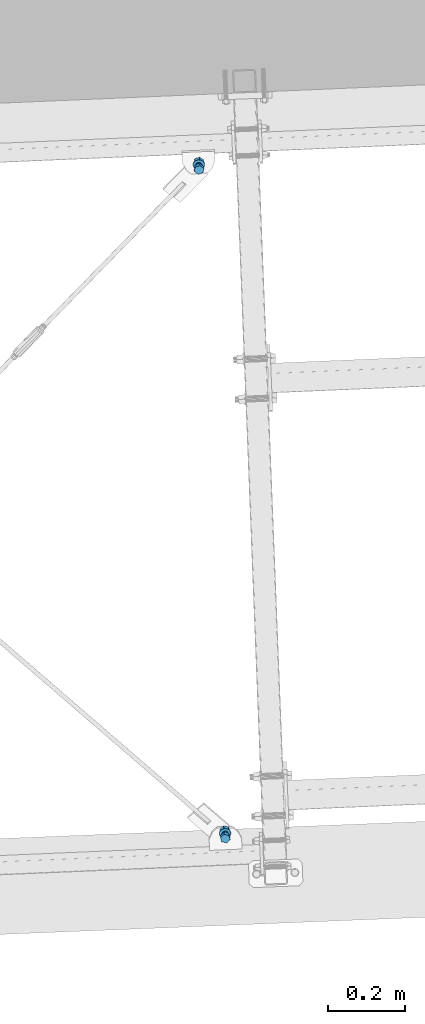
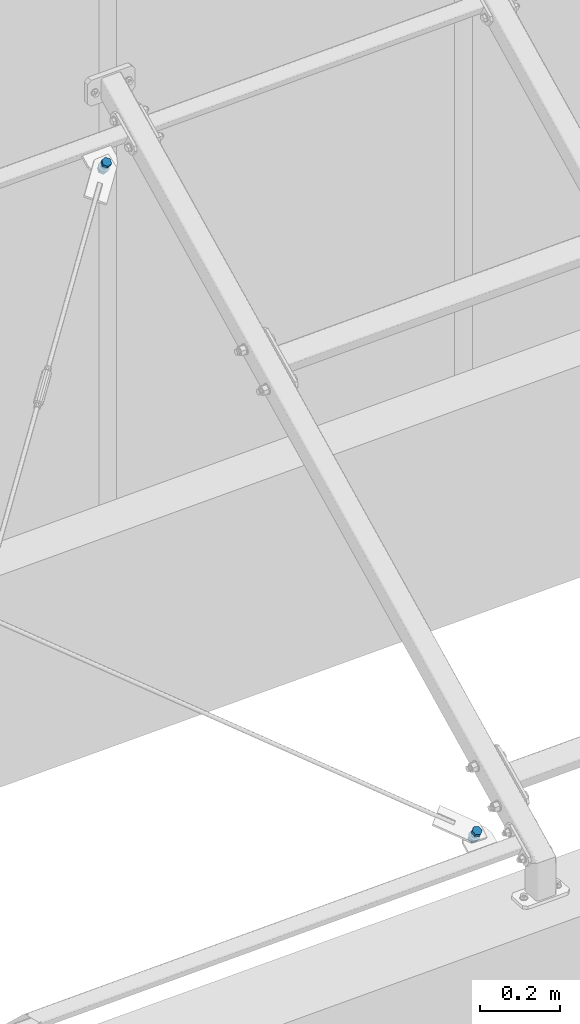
# One storey, part 268 of 288: 2 mechanical fasteners.
"""IFC2X3 building model written with IfcOpenShell, lengths in millimetres."""

import ifcopenshell
import ifcopenshell.guid

model = None  # the IFC model being written
_history = None  # IfcOwnerHistory: only IFC2X3 demands one
_inside = {}  # id of a spatial element -> (the spatial element, [elements in it])
_under = {}  # id of a project, library or spatial element -> (it, [spatial elements below it])
_declared = {}  # id of a project -> (the project, [libraries it declares])
_typed = {}  # id of a type object -> (the type object, [elements of that type])
_made_of = {}  # id of a material, layer set ... -> (it, [elements and type objects made of it])


def new_model(schema):
    """Start an empty IFC model of exactly this schema.

    Asked for "IFC4X3", IfcOpenShell would pick the latest addendum, in which some entities
    have other attributes; the version numbers below select the first issue.
    IFC2X3 requires an IfcOwnerHistory on every rooted entity: one is made here for all.
    """
    global model, _history
    if schema == "IFC4X3":
        model = ifcopenshell.file(schema_version=(4, 3, 0, 0))
    else:
        model = ifcopenshell.file(schema=schema)
    _inside.clear()
    _under.clear()
    _declared.clear()
    _typed.clear()
    _made_of.clear()
    _history = None
    if model.schema == "IFC2X3":
        org = make("IfcOrganization", Name="unknown")
        user = make(
            "IfcPersonAndOrganization",
            ThePerson=make("IfcPerson", FamilyName="unknown"),
            TheOrganization=org,
        )
        app = make(
            "IfcApplication",
            ApplicationDeveloper=org,
            Version="unknown",
            ApplicationFullName="unknown",
            ApplicationIdentifier="unknown",
        )
        _history = make(
            "IfcOwnerHistory",
            OwningUser=user,
            OwningApplication=app,
            ChangeAction="ADDED",
            CreationDate=0,
        )
    return model


def make(cls, **values):
    """One entity of the class cls with the attributes given. An attribute that is None is left unset."""
    return model.create_entity(
        cls, **{name: value for name, value in values.items() if value is not None}
    )


def entity(cls, *values):
    """Any entity or typed value of the class cls, its attributes in the order of the schema. None: left unset."""
    e = model.create_entity(cls)
    for i, value in enumerate(values):
        if value is not None:
            e[i] = value
    return e


def rooted(cls, **values):
    """An entity with a GlobalId (a new one), such as an element, a storey or a relation."""
    return make(cls, GlobalId=ifcopenshell.guid.new(), OwnerHistory=_history, **values)


def si_unit(unit_type, name, prefix=None):
    """IfcSIUnit, for example si_unit("LENGTHUNIT", "METRE", prefix="MILLI")."""
    return make("IfcSIUnit", UnitType=unit_type, Prefix=prefix, Name=name)


def converted_unit(unit_type, name, factor, base, dimensions=None, offset=None):
    """IfcConversionBasedUnit, such as the inch: factor (a typed value) times the base unit."""
    return make(
        "IfcConversionBasedUnit"
        if offset is None
        else "IfcConversionBasedUnitWithOffset",
        ConversionOffset=offset,
        Dimensions=None
        if dimensions is None
        else entity("IfcDimensionalExponents", *dimensions),
        UnitType=unit_type,
        Name=name,
        ConversionFactor=make(
            "IfcMeasureWithUnit", ValueComponent=factor, UnitComponent=base
        ),
    )


def assignment(units):
    """IfcUnitAssignment: the units of a project."""
    return None if units is None else make("IfcUnitAssignment", Units=units)


def point(xyz):
    """IfcCartesianPoint."""
    return None if xyz is None else make("IfcCartesianPoint", Coordinates=xyz)


def direction(xyz):
    """IfcDirection."""
    return None if xyz is None else make("IfcDirection", DirectionRatios=xyz)


def frame(location, z_axis=None, x_axis=None):
    """IfcAxis2Placement3D, a coordinate frame: its origin and axes. An axis left out is left unset."""
    return make(
        "IfcAxis2Placement3D",
        Location=point(location),
        Axis=direction(z_axis),
        RefDirection=direction(x_axis),
    )


def origin_with_axes():
    """The frame at (0, 0, 0) with the z axis (0, 0, 1) and the x axis (1, 0, 0) written out."""
    return frame((0.0, 0.0, 0.0), z_axis=(0.0, 0.0, 1.0), x_axis=(1.0, 0.0, 0.0))


def place(relative_to, where):
    """IfcLocalPlacement: puts the frame where relative to a parent placement (None: the world)."""
    return make(
        "IfcLocalPlacement", PlacementRelTo=relative_to, RelativePlacement=where
    )


def context(
    kind, dimensions, precision=None, world=None, true_north=None, identifier=None
):
    """IfcGeometricRepresentationContext, for example the 3D "Model" context."""
    return make(
        "IfcGeometricRepresentationContext",
        ContextIdentifier=identifier,
        ContextType=kind,
        CoordinateSpaceDimension=dimensions,
        Precision=precision,
        WorldCoordinateSystem=world,
        TrueNorth=true_north,
    )


def project(units=None, contexts=None):
    """IfcProject with its units and contexts."""
    return rooted(
        "IfcProject",
        Name="project",
        RepresentationContexts=contexts,
        UnitsInContext=assignment(units),
    )


def spatial(cls, under=None, at=None, **own):
    """A site, building, storey or space (cls), placed at a placement, below another one or the project."""
    s = rooted(cls, ObjectPlacement=at, **own)
    if under is not None:
        _under.setdefault(under.id(), (under, []))[1].append(s)
    return s


def faces_of(points, faces, orient=None, outer=None):
    """IfcFace entities. A face is a list of loops; a loop is a list of indices into points, from 0.

    orient and outer hold one flag for each loop. By default every Orientation is true, the
    first loop of a face is its IfcFaceOuterBound and the others are IfcFaceBound.
    """
    made = []
    for i, loops in enumerate(faces):
        bounds = []
        for j, loop in enumerate(loops):
            is_outer = j == 0 if outer is None else outer[i][j]
            bounds.append(
                make(
                    "IfcFaceOuterBound" if is_outer else "IfcFaceBound",
                    Bound=make("IfcPolyLoop", Polygon=[points[k] for k in loop]),
                    Orientation=True if orient is None else orient[i][j],
                )
            )
        made.append(make("IfcFace", Bounds=bounds))
    return made


def faceted_brep(points, faces, orient=None, outer=None, voids=None):
    """IfcFacetedBrep: a solid bounded by flat faces; with voids (closed shells), ...WithVoids."""
    shared = [point(p) for p in points]
    hull = make("IfcClosedShell", CfsFaces=faces_of(shared, faces, orient, outer))
    if voids is None:
        return make("IfcFacetedBrep", Outer=hull)
    return make(
        "IfcFacetedBrepWithVoids",
        Outer=hull,
        Voids=[
            make(cls, CfsFaces=faces_of(shared, fs, o, b)) for cls, fs, o, b in voids
        ],
    )


def shape(context_of_items, identifier, shape_type, items):
    """IfcShapeRepresentation: the items that make up one representation, for example the "Body"."""
    return make(
        "IfcShapeRepresentation",
        ContextOfItems=context_of_items,
        RepresentationIdentifier=identifier,
        RepresentationType=shape_type,
        Items=items,
    )


def made_of(thing, what):
    """Note that an element or type object is made of a material, layer set ...; save() writes the relation."""
    if what is not None:
        _made_of.setdefault(what.id(), (what, []))[1].append(thing)
    return thing


def element(
    cls,
    number,
    at=None,
    inside=None,
    cuts=None,
    type_object=None,
    material=None,
    context=None,
    identifier="Body",
    shape_type=None,
    held_by="IfcProductDefinitionShape",
    body=None,
    shapes=None,
    **own,
):
    """One element of the class cls, such as IfcWall. Its Tag is "e" and its number.

    at: its placement. inside: the storey or other place that contains it. cuts: it is an
    opening in that element (IfcRelVoidsElement). A single representation is given by context,
    identifier, shape_type and body (its items); several are given by shapes. held_by: the class
    of the entity that holds the representations. save() writes the other relations.
    """
    e = rooted(cls, Tag="e%d" % number, ObjectPlacement=at, **own)
    if body is not None:
        shapes = [shape(context, identifier, shape_type, body)]
    if shapes is not None:
        e.Representation = make(held_by, Representations=shapes)
    if inside is not None:
        _inside.setdefault(inside.id(), (inside, []))[1].append(e)
    if cuts is not None:
        rooted(
            "IfcRelVoidsElement", RelatingBuildingElement=cuts, RelatedOpeningElement=e
        )
    if type_object is not None:
        _typed.setdefault(type_object.id(), (type_object, []))[1].append(e)
    return made_of(e, material)


def aggregate(whole, parts):
    """IfcRelAggregates: a whole, such as a stair, and the parts it consists of."""
    return rooted("IfcRelAggregates", RelatingObject=whole, RelatedObjects=parts)


def save(model, path):
    """Write the relations noted so far, then the file.

    IfcRelAggregates (storeys below a building ...), IfcRelContainedInSpatialStructure (elements
    in a storey), IfcRelDefinesByType, IfcRelAssociatesMaterial and IfcRelDeclares: one each for
    every whole, place, type object, material and project.
    """
    for whole, parts in _under.values():
        aggregate(whole, parts)
    for where, things in _inside.values():
        rooted(
            "IfcRelContainedInSpatialStructure",
            RelatedElements=things,
            RelatingStructure=where,
        )
    for kind, things in _typed.values():
        rooted("IfcRelDefinesByType", RelatedObjects=things, RelatingType=kind)
    for what, things in _made_of.values():
        rooted("IfcRelAssociatesMaterial", RelatedObjects=things, RelatingMaterial=what)
    for by, libraries in _declared.values():
        rooted("IfcRelDeclares", RelatingContext=by, RelatedDefinitions=libraries)
    model.write(path)


model = new_model("IFC2X3")

# Units and contexts
model_context = context("Model", 3, precision=1e-09, world=origin_with_axes())
ifc_project = project(units=[si_unit("LENGTHUNIT", "METRE", prefix="MILLI"), si_unit("AREAUNIT", "SQUARE_METRE"), si_unit("VOLUMEUNIT", "CUBIC_METRE"), converted_unit("PLANEANGLEUNIT", "DEGREE", entity("IfcPlaneAngleMeasure", 0.01745329), si_unit("PLANEANGLEUNIT", "RADIAN"), dimensions=[0, 0, 0, 0, 0, 0, 0])], contexts=[model_context])

# Site, building, storey
site_placement = place(None, origin_with_axes())
site = spatial("IfcSite", under=ifc_project, at=site_placement, Name="Remont ?wietlik?w nad MC w NCPP w Opolu", CompositionType="ELEMENT")
building_placement = place(site_placement, origin_with_axes())
building = spatial("IfcBuilding", under=site, at=building_placement, Name="Konstrukcja 1", CompositionType="ELEMENT")
storey_placement = place(building_placement, origin_with_axes())
storey = spatial("IfcBuildingStorey", under=building, at=storey_placement, Name="Default Storey", CompositionType="ELEMENT", Elevation=0.0)

# Mechanical fasteners
mechanical_fastener_1_placement = place(None, origin_with_axes())
element("IfcMechanicalFastener", 1, at=mechanical_fastener_1_placement, inside=storey, ObjectType="Bolt#1", NominalDiameter=16.0, NominalLength=40.0, context=model_context, shape_type="Brep", body=[
    faceted_brep([(8631.695032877, 13983.653816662, 192.39516934), (8631.479083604, 13988.688953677, 183.757996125), (8634.862780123, 13977.546911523, 177.178017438), (8635.078729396, 13972.511774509, 185.815190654), (8647.758125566, 13974.629956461, 175.155132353), (8647.974074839, 13969.594819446, 183.792305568), (8657.26977449, 13982.855043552, 179.712225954), (8657.485723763, 13977.819906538, 188.34939917), (8653.886077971, 13993.997085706, 186.292204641), (8654.102027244, 13988.961948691, 194.929377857), (8640.990732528, 13996.914040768, 188.315089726), (8641.2066818, 13991.878903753, 196.952262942)], [[[0, 1, 2, 3]], [[3, 2, 4, 5]], [[5, 4, 6, 7]], [[7, 6, 8, 9]], [[9, 8, 10, 11]], [[11, 10, 1, 0]], [[3, 5, 7, 9, 11, 0]], [[2, 1, 10, 8, 6, 4]]]),
    faceted_brep([(8649.650568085, 13988.973210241, 164.944798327), (8649.996086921, 13980.916991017, 178.764275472), (8647.390997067, 13979.403877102, 177.947322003), (8647.045478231, 13987.460096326, 164.127844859), (8644.326662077, 13978.860251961, 177.707025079), (8643.98114324, 13986.916471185, 163.887547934), (8641.269599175, 13979.368877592, 178.079967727), (8640.924080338, 13987.425096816, 164.260490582), (8638.685218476, 13980.852320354, 179.009372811), (8638.339699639, 13988.908539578, 165.189895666), (8636.966968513, 13983.084739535, 180.353746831), (8636.621449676, 13991.140958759, 166.534269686), (8636.376437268, 13985.72626955, 181.90842103), (8636.030918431, 13993.782488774, 168.088943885), (8637.003527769, 13988.374761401, 183.436710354), (8636.658008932, 13996.430980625, 169.617233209), (8638.752771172, 13990.627006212, 184.705946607), (8638.407252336, 13998.683225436, 170.886469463), (8641.357861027, 13992.140120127, 185.522900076), (8641.01234219, 14000.196339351, 171.703422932), (8644.422196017, 13992.683745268, 185.763197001), (8644.07667718, 14000.739964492, 171.943719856), (8647.479258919, 13992.175119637, 185.390254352), (8647.133740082, 14000.231338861, 171.570777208), (8650.063639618, 13990.691676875, 184.460849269), (8649.718120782, 13998.747896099, 170.641372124), (8651.781889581, 13988.459257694, 183.116475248), (8651.436370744, 13996.515476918, 169.296998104), (8652.372420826, 13985.817727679, 181.561801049), (8652.026901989, 13993.873946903, 167.742323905), (8651.745330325, 13983.169235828, 180.033511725), (8651.399811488, 13991.225455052, 166.214034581)], [[[0, 1, 2, 3]], [[3, 2, 4, 5]], [[5, 4, 6, 7]], [[7, 6, 8, 9]], [[9, 8, 10, 11]], [[11, 10, 12, 13]], [[13, 12, 14, 15]], [[15, 14, 16, 17]], [[17, 16, 18, 19]], [[19, 18, 20, 21]], [[21, 20, 22, 23]], [[23, 22, 24, 25]], [[25, 24, 26, 27]], [[27, 26, 28, 29]], [[29, 28, 30, 31]], [[31, 30, 1, 0]], [[2, 1, 30, 28, 26, 24, 22, 20, 18, 16, 14, 12, 10, 8, 6, 4]], [[31, 0, 3, 5, 7, 9, 11, 13, 15, 17, 19, 21, 23, 25, 27, 29]]]),
    faceted_brep([(8654.504733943, 13986.235619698, 159.754165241), (8654.569518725, 13984.725078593, 162.345317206), (8652.285902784, 13983.100402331, 161.455289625), (8652.221118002, 13984.610943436, 158.86413766), (8649.684975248, 13981.887990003, 160.813529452), (8649.620190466, 13983.398531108, 158.222377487), (8646.866688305, 13981.134433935, 160.444699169), (8646.801903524, 13982.644975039, 157.853547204), (8643.939347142, 13980.868692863, 160.362972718), (8643.87456236, 13982.379233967, 157.771820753), (8641.015447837, 13981.100979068, 160.571490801), (8640.950663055, 13982.611520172, 157.980338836), (8638.207354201, 13981.822365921, 161.062240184), (8638.142569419, 13983.332907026, 158.471088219), (8635.622979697, 13983.005130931, 161.816361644), (8635.558194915, 13984.515672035, 159.225209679), (8633.361640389, 13984.603821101, 162.804874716), (8633.296855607, 13986.114362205, 160.213722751), (8631.510238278, 13986.556999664, 163.989791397), (8631.445453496, 13988.067540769, 161.398639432), (8630.139921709, 13988.789607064, 165.325576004), (8630.075136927, 13990.300148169, 162.734424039), (8629.303351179, 13991.215845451, 166.760895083), (8629.238566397, 13992.726386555, 164.169743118), (8629.032675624, 13993.742475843, 168.240590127), (8628.967890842, 13995.253016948, 165.649438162), (8629.338296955, 13996.272401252, 169.707797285), (8629.273512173, 13997.782942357, 167.11664532), (8630.208470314, 13998.708398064, 171.106132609), (8630.143685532, 14000.218939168, 168.514980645), (8631.609755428, 14000.956852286, 172.381858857), (8631.544970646, 14002.46739339, 169.790706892), (8633.488301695, 14002.931357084, 173.485950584), (8633.423516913, 14004.441898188, 170.89479862), (8635.771917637, 14004.556033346, 174.375978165), (8635.707132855, 14006.06657445, 171.7848262), (8638.372845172, 14005.768445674, 175.017738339), (8638.30806039, 14007.278986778, 172.426586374), (8641.191132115, 14006.522001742, 175.386568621), (8641.126347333, 14008.032542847, 172.795416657), (8644.118473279, 14006.787742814, 175.468295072), (8644.053688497, 14008.298283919, 172.877143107), (8647.042372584, 14006.555456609, 175.259776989), (8646.977587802, 14008.065997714, 172.668625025), (8649.85046622, 14005.834069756, 174.769027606), (8649.785681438, 14007.34461086, 172.177875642), (8652.434840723, 14004.651304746, 174.014906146), (8652.370055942, 14006.161845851, 171.423754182), (8654.696180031, 14003.052614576, 173.026393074), (8654.631395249, 14004.563155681, 170.43524111), (8656.547582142, 14001.099436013, 171.841476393), (8656.48279736, 14002.609977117, 169.250324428), (8657.917898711, 13998.866828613, 170.505691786), (8657.85311393, 14000.377369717, 167.914539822), (8658.754469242, 13996.440590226, 169.070372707), (8658.68968446, 13997.951131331, 166.479220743), (8659.025144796, 13993.913959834, 167.590677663), (8658.960360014, 13995.424500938, 164.999525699), (8658.719523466, 13991.384034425, 166.123470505), (8658.654738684, 13992.894575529, 163.532318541), (8657.849350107, 13988.948037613, 164.725135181), (8657.784565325, 13990.458578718, 162.133983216), (8656.448064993, 13986.699583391, 163.449408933), (8656.383280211, 13988.210124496, 160.858256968)], [[[0, 1, 2, 3]], [[3, 2, 4, 5]], [[5, 4, 6, 7]], [[7, 6, 8, 9]], [[9, 8, 10, 11]], [[11, 10, 12, 13]], [[13, 12, 14, 15]], [[15, 14, 16, 17]], [[17, 16, 18, 19]], [[19, 18, 20, 21]], [[21, 20, 22, 23]], [[23, 22, 24, 25]], [[25, 24, 26, 27]], [[27, 26, 28, 29]], [[29, 28, 30, 31]], [[31, 30, 32, 33]], [[33, 32, 34, 35]], [[35, 34, 36, 37]], [[37, 36, 38, 39]], [[39, 38, 40, 41]], [[41, 40, 42, 43]], [[43, 42, 44, 45]], [[45, 44, 46, 47]], [[47, 46, 48, 49]], [[49, 48, 50, 51]], [[51, 50, 52, 53]], [[53, 52, 54, 55]], [[55, 54, 56, 57]], [[57, 56, 58, 59]], [[59, 58, 60, 61]], [[61, 60, 62, 63]], [[63, 62, 1, 0]], [[2, 1, 62, 60, 58, 56, 54, 52, 50, 48, 46, 44, 42, 40, 38, 36, 34, 32, 30, 28, 26, 24, 22, 20, 18, 16, 14, 12, 10, 8, 6, 4]], [[63, 0, 3, 5, 7, 9, 11, 13, 15, 17, 19, 21, 23, 25, 27, 29, 31, 33, 35, 37, 39, 41, 43, 45, 47, 49, 51, 53, 55, 57, 59, 61]]]),
    faceted_brep([(8631.068779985, 13998.255714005, 167.347367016), (8630.749175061, 14005.707716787, 154.564350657), (8634.132871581, 13994.565674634, 147.98437197), (8634.452476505, 13987.113671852, 160.767388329), (8647.028217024, 13991.648719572, 145.961486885), (8647.347821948, 13984.19671679, 158.744503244), (8656.539865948, 13999.873806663, 150.518580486), (8656.859470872, 13992.421803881, 163.301596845), (8653.156169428, 14011.015848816, 157.098559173), (8653.475774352, 14003.563846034, 169.881575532), (8640.260823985, 14013.932803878, 159.121444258), (8640.580428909, 14006.480801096, 171.904460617)], [[[0, 1, 2, 3]], [[3, 2, 4, 5]], [[5, 4, 6, 7]], [[7, 6, 8, 9]], [[9, 8, 10, 11]], [[11, 10, 1, 0]], [[3, 5, 7, 9, 11, 0]], [[2, 1, 10, 8, 6, 4]]]),
    faceted_brep([(8649.13228983, 14001.057539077, 144.215582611), (8649.266178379, 13997.935754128, 149.570630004), (8646.661088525, 13996.422640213, 148.753676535), (8646.527199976, 13999.544425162, 143.398629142), (8643.596753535, 13995.879015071, 148.513379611), (8643.462864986, 13999.00080002, 143.158332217), (8640.539690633, 13996.387640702, 148.886322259), (8640.405802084, 13999.509425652, 143.531274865), (8637.955309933, 13997.871083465, 149.815727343), (8637.821421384, 14000.992868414, 144.460679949), (8636.237059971, 14000.103502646, 151.160101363), (8636.103171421, 14003.225287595, 145.805053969), (8635.646528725, 14002.745032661, 152.714775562), (8635.512640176, 14005.86681761, 147.359728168), (8636.273619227, 14005.393524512, 154.243064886), (8636.139730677, 14008.515309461, 148.888017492), (8638.02286263, 14007.645769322, 155.512301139), (8637.888974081, 14010.767554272, 150.157253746), (8640.627952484, 14009.158883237, 156.329254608), (8640.494063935, 14012.280668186, 150.974207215), (8643.692287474, 14009.702508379, 156.569551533), (8643.558398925, 14012.824293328, 151.214504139), (8646.749350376, 14009.193882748, 156.196608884), (8646.615461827, 14012.315667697, 150.841561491), (8649.333731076, 14007.710439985, 155.267203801), (8649.199842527, 14010.832224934, 149.912156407), (8651.051981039, 14005.478020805, 153.92282978), (8650.918092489, 14008.599805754, 148.567782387), (8651.642512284, 14002.836490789, 152.368155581), (8651.508623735, 14005.958275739, 147.013108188), (8651.015421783, 14000.187998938, 150.839866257), (8650.881533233, 14003.309783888, 145.484818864)], [[[0, 1, 2, 3]], [[3, 2, 4, 5]], [[5, 4, 6, 7]], [[7, 6, 8, 9]], [[9, 8, 10, 11]], [[11, 10, 12, 13]], [[13, 12, 14, 15]], [[15, 14, 16, 17]], [[17, 16, 18, 19]], [[19, 18, 20, 21]], [[21, 20, 22, 23]], [[23, 22, 24, 25]], [[25, 24, 26, 27]], [[27, 26, 28, 29]], [[29, 28, 30, 31]], [[31, 30, 1, 0]], [[2, 1, 30, 28, 26, 24, 22, 20, 18, 16, 14, 12, 10, 8, 6, 4]], [[31, 0, 3, 5, 7, 9, 11, 13, 15, 17, 19, 21, 23, 25, 27, 29]]]),
])
mechanical_fastener_2_placement = place(None, origin_with_axes())
element("IfcMechanicalFastener", 2, at=mechanical_fastener_2_placement, inside=storey, ObjectType="Bolt#1", NominalDiameter=16.0, NominalLength=40.0, context=model_context, shape_type="Brep", body=[
    faceted_brep([(8563.333486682, 15725.848200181, 1198.15826303), (8563.549435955, 15720.813063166, 1206.795436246), (8565.981584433, 15732.201696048, 1213.37375821), (8565.765635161, 15737.236833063, 1204.736584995), (8578.584883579, 15736.199788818, 1215.389379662), (8578.368934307, 15741.234925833, 1206.752206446), (8588.756034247, 15728.809248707, 1210.826679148), (8588.540084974, 15733.844385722, 1202.189505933), (8586.323885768, 15717.420615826, 1204.248357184), (8586.107936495, 15722.455752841, 1195.611183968), (8573.720586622, 15713.422523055, 1202.232735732), (8573.504637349, 15718.45766007, 1193.595562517)], [[[0, 1, 2, 3]], [[3, 2, 4, 5]], [[5, 4, 6, 7]], [[7, 6, 8, 9]], [[9, 8, 10, 11]], [[11, 10, 1, 0]], [[4, 2, 1, 10, 8, 6]], [[0, 3, 5, 7, 9, 11]]]),
    faceted_brep([(8581.128992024, 15735.159806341, 1203.141639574), (8580.783473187, 15743.216025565, 1189.322162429), (8578.0601169, 15744.503214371, 1190.140633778), (8578.405635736, 15736.446995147, 1203.960110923), (8574.960900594, 15744.785506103, 1190.382686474), (8575.306419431, 15736.729286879, 1204.202163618), (8571.957651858, 15744.019924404, 1190.011470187), (8572.303170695, 15735.96370518, 1203.830947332), (8569.507588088, 15742.323022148, 1189.083499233), (8569.853106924, 15734.266802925, 1202.902976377), (8567.983709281, 15739.953137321, 1187.740048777), (8568.329228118, 15731.896918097, 1201.559525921), (8567.618012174, 15737.271063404, 1186.185646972), (8567.96353101, 15729.214844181, 1200.005124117), (8568.466170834, 15734.685121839, 1184.656937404), (8568.811689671, 15726.628902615, 1198.476414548), (8570.399060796, 15732.588998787, 1183.386652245), (8570.744579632, 15724.532779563, 1197.20612939), (8573.122417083, 15731.301809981, 1182.568180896), (8573.467935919, 15723.245590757, 1196.387658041), (8576.221633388, 15731.019518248, 1182.3261282), (8576.567152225, 15722.963299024, 1196.145605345), (8579.224882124, 15731.785099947, 1182.697344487), (8579.570400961, 15723.728880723, 1196.516821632), (8581.674945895, 15733.482002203, 1183.625315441), (8582.020464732, 15725.425782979, 1197.444792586), (8583.198824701, 15735.85188703, 1184.968765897), (8583.544343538, 15727.795667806, 1198.788243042), (8583.564521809, 15738.533960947, 1186.523167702), (8583.910040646, 15730.477741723, 1200.342644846), (8582.716363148, 15741.119902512, 1188.05187727), (8583.061881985, 15733.063683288, 1201.871354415)], [[[0, 1, 2, 3]], [[3, 2, 4, 5]], [[5, 4, 6, 7]], [[7, 6, 8, 9]], [[9, 8, 10, 11]], [[11, 10, 12, 13]], [[13, 12, 14, 15]], [[15, 14, 16, 17]], [[17, 16, 18, 19]], [[19, 18, 20, 21]], [[21, 20, 22, 23]], [[23, 22, 24, 25]], [[25, 24, 26, 27]], [[27, 26, 28, 29]], [[29, 28, 30, 31]], [[31, 30, 1, 0]], [[0, 3, 5, 7, 9, 11, 13, 15, 17, 19, 21, 23, 25, 27, 29, 31]], [[1, 30, 28, 26, 24, 22, 20, 18, 16, 14, 12, 10, 8, 6, 4, 2]]]),
    faceted_brep([(8585.326653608, 15747.86534978, 1191.918948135), (8585.261868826, 15749.375890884, 1189.32779617), (8582.849430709, 15750.801455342, 1190.219161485), (8582.914215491, 15749.290914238, 1192.81031345), (8580.155575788, 15751.789369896, 1190.862429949), (8580.22036057, 15750.278828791, 1193.453581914), (8577.283827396, 15752.301669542, 1191.232881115), (8577.348612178, 15750.791128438, 1193.82403308), (8574.344545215, 15752.318666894, 1191.316278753), (8574.409329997, 15750.808125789, 1193.907430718), (8571.450684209, 15751.839708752, 1191.109417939), (8571.515468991, 15750.329167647, 1193.700569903), (8568.713453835, 15750.883201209, 1190.620248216), (8568.778238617, 15749.372660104, 1193.211400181), (8566.23804432, 15749.485902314, 1189.867568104), (8566.302829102, 15747.975361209, 1192.458720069), (8564.119584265, 15747.701509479, 1188.880302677), (8564.184369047, 15746.190968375, 1191.471454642), (8562.4394849, 15745.598595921, 1187.696391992), (8562.504269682, 15744.088054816, 1190.287543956), (8561.262311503, 15743.257975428, 1186.361333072), (8561.327096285, 15741.747434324, 1188.952485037), (8560.633302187, 15740.769596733, 1184.926431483), (8560.698086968, 15739.259055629, 1187.517583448), (8560.576629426, 15738.229086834, 1183.446829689), (8560.641414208, 15736.71854573, 1186.037981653), (8561.094471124, 15735.734076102, 1181.979387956), (8561.159255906, 15734.223534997, 1184.570539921), (8562.166926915, 15733.380446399, 1180.580499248), (8562.231711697, 15731.869905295, 1183.171651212), (8563.752782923, 15731.258646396, 1179.303922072), (8563.817567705, 15729.748105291, 1181.895074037), (8565.791095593, 15729.450215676, 1178.198714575), (8565.855880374, 15727.939674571, 1180.789866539), (8568.20353371, 15728.024651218, 1177.307349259), (8568.268318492, 15726.514110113, 1179.898501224), (8570.897388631, 15727.036736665, 1176.664080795), (8570.962173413, 15725.52619556, 1179.25523276), (8573.769137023, 15726.524437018, 1176.293629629), (8573.833921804, 15725.013895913, 1178.884781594), (8576.708419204, 15726.507439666, 1176.210231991), (8576.773203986, 15724.996898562, 1178.801383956), (8579.60228021, 15726.986397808, 1176.417092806), (8579.667064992, 15725.475856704, 1179.008244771), (8582.339510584, 15727.942905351, 1176.906262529), (8582.404295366, 15726.432364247, 1179.497414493), (8584.814920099, 15729.340204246, 1177.658942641), (8584.87970488, 15727.829663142, 1180.250094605), (8586.933380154, 15731.124597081, 1178.646208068), (8586.998164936, 15729.614055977, 1181.237360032), (8588.613479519, 15733.227510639, 1179.830118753), (8588.678264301, 15731.716969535, 1182.421270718), (8589.790652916, 15735.568131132, 1181.165177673), (8589.855437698, 15734.057590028, 1183.756329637), (8590.419662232, 15738.056509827, 1182.600079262), (8590.484447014, 15736.545968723, 1185.191231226), (8590.476334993, 15740.597019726, 1184.079681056), (8590.541119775, 15739.086478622, 1186.670833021), (8589.958493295, 15743.092030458, 1185.547122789), (8590.023278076, 15741.581489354, 1188.138274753), (8588.886037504, 15745.445660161, 1186.946011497), (8588.950822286, 15743.935119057, 1189.537163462), (8587.300181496, 15747.567460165, 1188.222588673), (8587.364966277, 15746.05691906, 1190.813740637)], [[[0, 1, 2, 3]], [[3, 2, 4, 5]], [[5, 4, 6, 7]], [[7, 6, 8, 9]], [[9, 8, 10, 11]], [[11, 10, 12, 13]], [[13, 12, 14, 15]], [[15, 14, 16, 17]], [[17, 16, 18, 19]], [[19, 18, 20, 21]], [[21, 20, 22, 23]], [[23, 22, 24, 25]], [[25, 24, 26, 27]], [[27, 26, 28, 29]], [[29, 28, 30, 31]], [[31, 30, 32, 33]], [[33, 32, 34, 35]], [[35, 34, 36, 37]], [[37, 36, 38, 39]], [[39, 38, 40, 41]], [[41, 40, 42, 43]], [[43, 42, 44, 45]], [[45, 44, 46, 47]], [[47, 46, 48, 49]], [[49, 48, 50, 51]], [[51, 50, 52, 53]], [[53, 52, 54, 55]], [[55, 54, 56, 57]], [[57, 56, 58, 59]], [[59, 58, 60, 61]], [[61, 60, 62, 63]], [[63, 62, 1, 0]], [[0, 3, 5, 7, 9, 11, 13, 15, 17, 19, 21, 23, 25, 27, 29, 31, 33, 35, 37, 39, 41, 43, 45, 47, 49, 51, 53, 55, 57, 59, 61, 63]], [[1, 62, 60, 58, 56, 54, 52, 50, 48, 46, 44, 42, 40, 38, 36, 34, 32, 30, 28, 26, 24, 22, 20, 18, 16, 14, 12, 10, 8, 6, 4, 2]]]),
    faceted_brep([(8562.60357814, 15742.866963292, 1168.964617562), (8562.923183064, 15735.414960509, 1181.747633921), (8565.355331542, 15746.803593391, 1188.325955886), (8565.035726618, 15754.255596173, 1175.542939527), (8577.958630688, 15750.801686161, 1190.341577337), (8577.639025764, 15758.253688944, 1177.558560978), (8588.129781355, 15743.411146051, 1185.778876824), (8587.810176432, 15750.863148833, 1172.995860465), (8585.697632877, 15732.022513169, 1179.200554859), (8585.378027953, 15739.474515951, 1166.4175385), (8573.094333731, 15728.024420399, 1177.184933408), (8572.774728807, 15735.476423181, 1164.401917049)], [[[0, 1, 2, 3]], [[3, 2, 4, 5]], [[5, 4, 6, 7]], [[7, 6, 8, 9]], [[9, 8, 10, 11]], [[11, 10, 1, 0]], [[4, 2, 1, 10, 8, 6]], [[0, 3, 5, 7, 9, 11]]]),
    faceted_brep([(8580.399083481, 15752.178569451, 1173.947994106), (8580.265194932, 15755.3003544, 1168.592946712), (8577.541838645, 15756.587543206, 1169.411418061), (8577.675727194, 15753.465758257, 1174.766465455), (8574.442622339, 15756.869834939, 1169.653470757), (8574.576510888, 15753.748049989, 1175.00851815), (8571.439373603, 15756.10425324, 1169.28225447), (8571.573262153, 15752.982468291, 1174.637301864), (8568.989309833, 15754.407350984, 1168.354283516), (8569.123198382, 15751.285566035, 1173.709330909), (8567.465431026, 15752.037466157, 1167.01083306), (8567.599319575, 15748.915681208, 1172.365880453), (8567.099733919, 15749.35539224, 1165.456431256), (8567.233622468, 15746.233607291, 1170.811478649), (8567.947892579, 15746.769450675, 1163.927721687), (8568.081781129, 15743.647665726, 1169.28276908), (8569.880782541, 15744.673327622, 1162.657436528), (8570.01467109, 15741.551542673, 1168.012483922), (8572.604138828, 15743.386138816, 1161.838965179), (8572.738027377, 15740.264353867, 1167.194012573), (8575.703355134, 15743.103847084, 1161.596912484), (8575.837243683, 15739.982062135, 1166.951959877), (8578.70660387, 15743.869428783, 1161.96812877), (8578.840492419, 15740.747643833, 1167.323176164), (8581.15666764, 15745.566331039, 1162.896099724), (8581.290556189, 15742.444546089, 1168.251147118), (8582.680546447, 15747.936215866, 1164.23955018), (8582.814434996, 15744.814430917, 1169.594597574), (8583.046243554, 15750.618289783, 1165.793951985), (8583.180132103, 15747.496504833, 1171.148999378), (8582.198084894, 15753.204231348, 1167.322661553), (8582.331973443, 15750.082446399, 1172.677708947)], [[[0, 1, 2, 3]], [[3, 2, 4, 5]], [[5, 4, 6, 7]], [[7, 6, 8, 9]], [[9, 8, 10, 11]], [[11, 10, 12, 13]], [[13, 12, 14, 15]], [[15, 14, 16, 17]], [[17, 16, 18, 19]], [[19, 18, 20, 21]], [[21, 20, 22, 23]], [[23, 22, 24, 25]], [[25, 24, 26, 27]], [[27, 26, 28, 29]], [[29, 28, 30, 31]], [[31, 30, 1, 0]], [[0, 3, 5, 7, 9, 11, 13, 15, 17, 19, 21, 23, 25, 27, 29, 31]], [[1, 30, 28, 26, 24, 22, 20, 18, 16, 14, 12, 10, 8, 6, 4, 2]]]),
])

save(model, "model.ifc")
